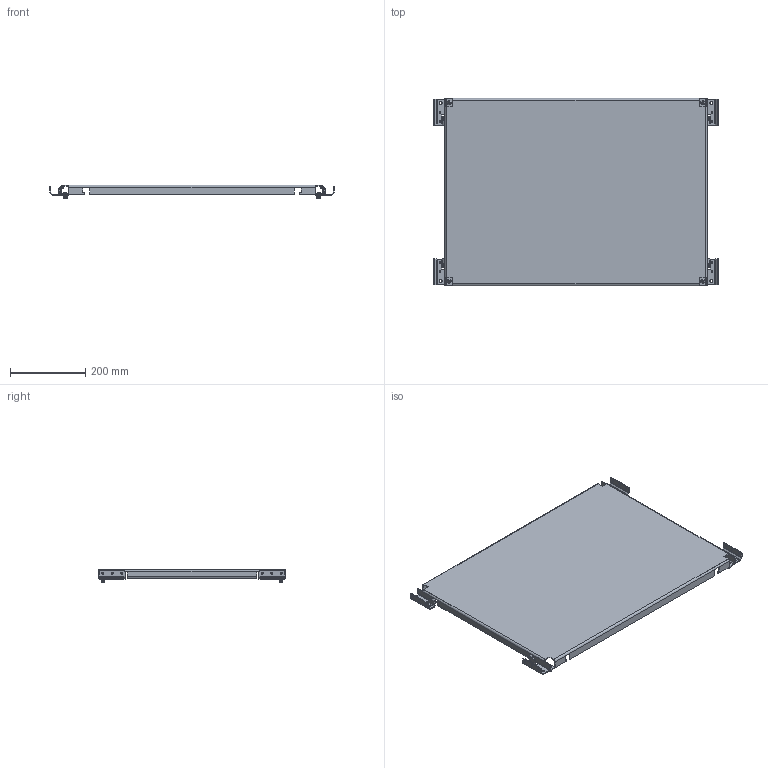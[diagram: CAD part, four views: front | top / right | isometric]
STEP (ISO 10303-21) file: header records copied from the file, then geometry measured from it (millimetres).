
FILE_DESCRIPTION (( 'STEP AP214' ), '1' );
FILE_NAME ('MSD 60.80 M ÑÁ Ïàíåëü ìîíòàæíàÿ ñåêöèîííàÿ â ñáîðå.STEP', '2024-06-14T12:06:33', ( '' ), ( '' ), 'SwSTEP 2.0', 'SolidWorks 2019', '' );
FILE_SCHEMA (( 'AUTOMOTIVE_DESIGN' ));
Length unit declared in the file: millimetre
Products named in the file (1): MSD 60.80 M ÑÁ Ïàíåëü ìîíòàæíàÿ ñåêöèîííàÿ â ñáîðå
Bounding box: 758 x 499 x 36.58 mm (x, y, z)
Volume: 1062741.7 mm3; surface area: 864969.8 mm2
Topology: 13 solids, 13 shells, 790 faces, 1924 edges, 1176 vertices
Faces by surface type: plane 358, cylinder 344, torus 48, bspline 16, cone 16, sphere 8
Entity records: 37512 total; most frequent: CARTESIAN_POINT 10079, DIRECTION 3998, ORIENTED_EDGE 3832, EDGE_CURVE 1916, AXIS2_PLACEMENT_3D 1487, VERTEX_POINT 1176, VECTOR 1024, LINE 1024
